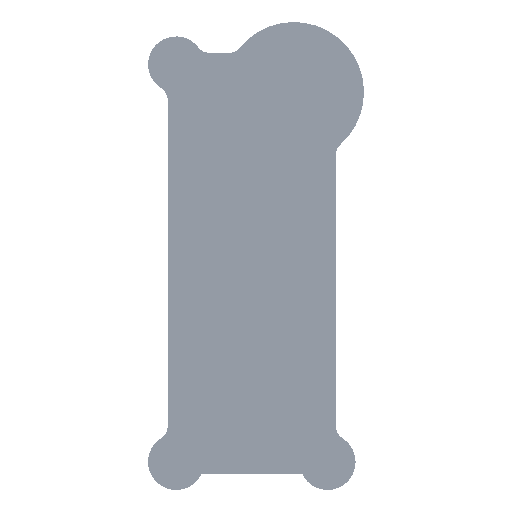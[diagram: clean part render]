
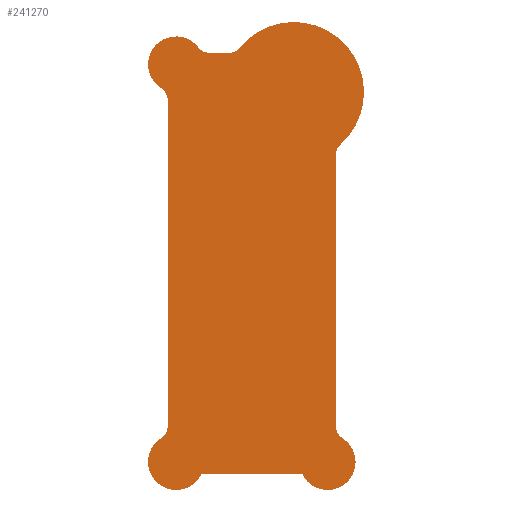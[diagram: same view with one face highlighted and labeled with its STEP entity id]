
A CAD part, front view. The second image highlights one B-rep face of the part: STEP entity #241270.
In plain terms, the highlighted planar face has unit normal (0, -1, 0) as drawn and (0, 0, 1) by its records, which use the part's own axes.
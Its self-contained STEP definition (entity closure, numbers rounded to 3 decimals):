
#20294=FACE_OUTER_BOUND('',#34039,.T.);
#34039=EDGE_LOOP('',(#177344,#177345,#177346,#177347,#177348,#177349,#177350,
#177351,#177352,#177353,#177354,#177355,#177356,#177357));
#44557=CIRCLE('',#255468,5.);
#44559=CIRCLE('',#255471,25.);
#44561=CIRCLE('',#255474,5.);
#44563=CIRCLE('',#255477,10.);
#44564=CIRCLE('',#255479,5.);
#44566=CIRCLE('',#255482,5.);
#44569=CIRCLE('',#255486,5.);
#44571=CIRCLE('',#255489,10.);
#44572=CIRCLE('',#255491,5.);
#44574=CIRCLE('',#255494,10.);
#57796=LINE('',#365053,#83496);
#57812=LINE('',#365084,#83512);
#57813=LINE('',#365086,#83513);
#57814=LINE('',#365088,#83514);
#83496=VECTOR('',#285776,10.);
#83512=VECTOR('',#285820,10.);
#83513=VECTOR('',#285823,10.);
#83514=VECTOR('',#285826,10.);
#107280=VERTEX_POINT('',#364934);
#107281=VERTEX_POINT('',#364936);
#107283=VERTEX_POINT('',#364942);
#107286=VERTEX_POINT('',#364949);
#107287=VERTEX_POINT('',#364951);
#107289=VERTEX_POINT('',#364957);
#107290=VERTEX_POINT('',#364961);
#107292=VERTEX_POINT('',#364967);
#107296=VERTEX_POINT('',#364976);
#107297=VERTEX_POINT('',#364978);
#107301=VERTEX_POINT('',#364989);
#107302=VERTEX_POINT('',#364993);
#107303=VERTEX_POINT('',#364994);
#107306=VERTEX_POINT('',#365002);
#132924=EDGE_CURVE('',#107280,#107281,#44557,.T.);
#132928=EDGE_CURVE('',#107283,#107280,#44559,.T.);
#132931=EDGE_CURVE('',#107286,#107287,#44561,.T.);
#132935=EDGE_CURVE('',#107289,#107286,#44563,.T.);
#132936=EDGE_CURVE('',#107290,#107283,#44564,.T.);
#132939=EDGE_CURVE('',#107292,#107289,#44566,.T.);
#132944=EDGE_CURVE('',#107296,#107297,#44569,.T.);
#132951=EDGE_CURVE('',#107301,#107296,#44571,.T.);
#132952=EDGE_CURVE('',#107302,#107303,#44572,.T.);
#132956=EDGE_CURVE('',#107303,#107306,#44574,.T.);
#132981=EDGE_CURVE('',#107292,#107297,#57796,.T.);
#132997=EDGE_CURVE('',#107290,#107287,#57812,.T.);
#132998=EDGE_CURVE('',#107302,#107281,#57813,.T.);
#132999=EDGE_CURVE('',#107301,#107306,#57814,.T.);
#177344=ORIENTED_EDGE('',*,*,#132981,.T.);
#177345=ORIENTED_EDGE('',*,*,#132944,.F.);
#177346=ORIENTED_EDGE('',*,*,#132951,.F.);
#177347=ORIENTED_EDGE('',*,*,#132999,.T.);
#177348=ORIENTED_EDGE('',*,*,#132956,.F.);
#177349=ORIENTED_EDGE('',*,*,#132952,.F.);
#177350=ORIENTED_EDGE('',*,*,#132998,.T.);
#177351=ORIENTED_EDGE('',*,*,#132924,.F.);
#177352=ORIENTED_EDGE('',*,*,#132928,.F.);
#177353=ORIENTED_EDGE('',*,*,#132936,.F.);
#177354=ORIENTED_EDGE('',*,*,#132997,.T.);
#177355=ORIENTED_EDGE('',*,*,#132931,.F.);
#177356=ORIENTED_EDGE('',*,*,#132935,.F.);
#177357=ORIENTED_EDGE('',*,*,#132939,.F.);
#232527=PLANE('',#255527);
#241270=ADVANCED_FACE('',(#20294),#232527,.T.);
#255468=AXIS2_PLACEMENT_3D('',#364937,#285658,#285659);
#255471=AXIS2_PLACEMENT_3D('',#364944,#285666,#285667);
#255474=AXIS2_PLACEMENT_3D('',#364952,#285673,#285674);
#255477=AXIS2_PLACEMENT_3D('',#364959,#285681,#285682);
#255479=AXIS2_PLACEMENT_3D('',#364962,#285685,#285686);
#255482=AXIS2_PLACEMENT_3D('',#364968,#285692,#285693);
#255486=AXIS2_PLACEMENT_3D('',#364979,#285702,#285703);
#255489=AXIS2_PLACEMENT_3D('',#364991,#285713,#285714);
#255491=AXIS2_PLACEMENT_3D('',#364995,#285717,#285718);
#255494=AXIS2_PLACEMENT_3D('',#365003,#285725,#285726);
#255527=AXIS2_PLACEMENT_3D('',#365089,#285827,#285828);
#285658=DIRECTION('center_axis',(0.,0.,1.));
#285659=DIRECTION('ref_axis',(-0.913,0.408,0.));
#285666=DIRECTION('center_axis',(0.,0.,-1.));
#285667=DIRECTION('ref_axis',(-1.,0.,0.));
#285673=DIRECTION('center_axis',(0.,0.,1.));
#285674=DIRECTION('ref_axis',(-0.442,-0.897,0.));
#285681=DIRECTION('center_axis',(0.,0.,-1.));
#285682=DIRECTION('ref_axis',(-1.,0.,0.));
#285685=DIRECTION('center_axis',(0.,0.,1.));
#285686=DIRECTION('ref_axis',(0.428,-0.904,0.));
#285692=DIRECTION('center_axis',(0.,0.,1.));
#285693=DIRECTION('ref_axis',(0.876,0.483,0.));
#285702=DIRECTION('center_axis',(0.,0.,1.));
#285703=DIRECTION('ref_axis',(0.876,-0.483,0.));
#285713=DIRECTION('center_axis',(0.,0.,-1.));
#285714=DIRECTION('ref_axis',(-1.,0.,0.));
#285717=DIRECTION('center_axis',(0.,0.,1.));
#285718=DIRECTION('ref_axis',(-0.876,-0.483,0.));
#285725=DIRECTION('center_axis',(0.,0.,-1.));
#285726=DIRECTION('ref_axis',(-1.,0.,0.));
#285776=DIRECTION('',(0.,-1.,0.));
#285820=DIRECTION('',(-1.,0.,0.));
#285823=DIRECTION('',(0.,1.,0.));
#285826=DIRECTION('',(1.,0.,0.));
#285827=DIRECTION('center_axis',(0.,0.,1.));
#285828=DIRECTION('ref_axis',(1.,0.,0.));
#364934=CARTESIAN_POINT('',(49.167,9.866,2.));
#364936=CARTESIAN_POINT('',(47.5,6.139,2.));
#364937=CARTESIAN_POINT('Origin',(52.5,6.139,2.));
#364942=CARTESIAN_POINT('',(13.153,44.333,2.));
#364944=CARTESIAN_POINT('Origin',(32.5,28.5,2.));
#364949=CARTESIAN_POINT('',(-1.57,44.454,2.));
#364951=CARTESIAN_POINT('',(2.396,42.5,2.));
#364952=CARTESIAN_POINT('Origin',(2.396,47.5,2.));
#364957=CARTESIAN_POINT('',(-14.833,29.903,2.));
#364959=CARTESIAN_POINT('Origin',(-9.5,38.362,2.));
#364961=CARTESIAN_POINT('',(9.284,42.5,2.));
#364962=CARTESIAN_POINT('Origin',(9.284,47.5,2.));
#364967=CARTESIAN_POINT('',(-12.5,25.674,2.));
#364968=CARTESIAN_POINT('Origin',(-17.5,25.674,2.));
#364976=CARTESIAN_POINT('',(-14.833,-94.903,2.));
#364978=CARTESIAN_POINT('',(-12.5,-90.674,2.));
#364979=CARTESIAN_POINT('Origin',(-17.5,-90.674,2.));
#364989=CARTESIAN_POINT('',(-0.396,-107.5,2.));
#364991=CARTESIAN_POINT('Origin',(-9.5,-103.362,2.));
#364993=CARTESIAN_POINT('',(47.5,-90.674,2.));
#364994=CARTESIAN_POINT('',(49.833,-94.903,2.));
#364995=CARTESIAN_POINT('Origin',(52.5,-90.674,2.));
#365002=CARTESIAN_POINT('',(35.396,-107.5,2.));
#365003=CARTESIAN_POINT('Origin',(44.5,-103.362,2.));
#365053=CARTESIAN_POINT('',(-12.5,42.5,2.));
#365084=CARTESIAN_POINT('',(47.5,42.5,2.));
#365086=CARTESIAN_POINT('',(47.5,-107.5,2.));
#365088=CARTESIAN_POINT('',(-12.5,-107.5,2.));
#365089=CARTESIAN_POINT('Origin',(17.5,-32.5,2.));
